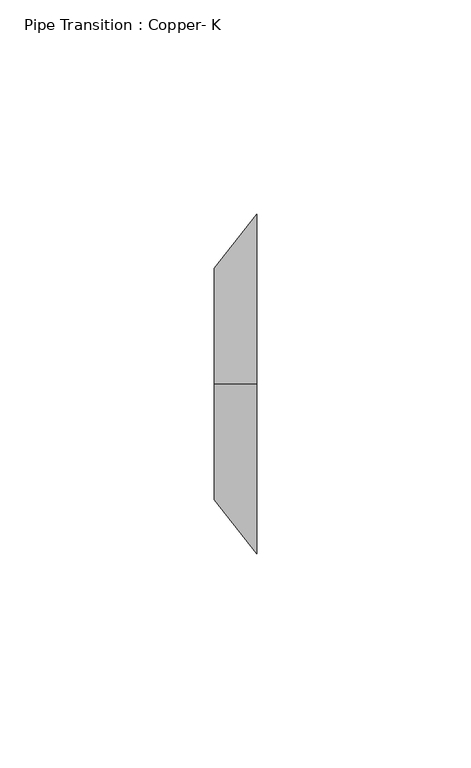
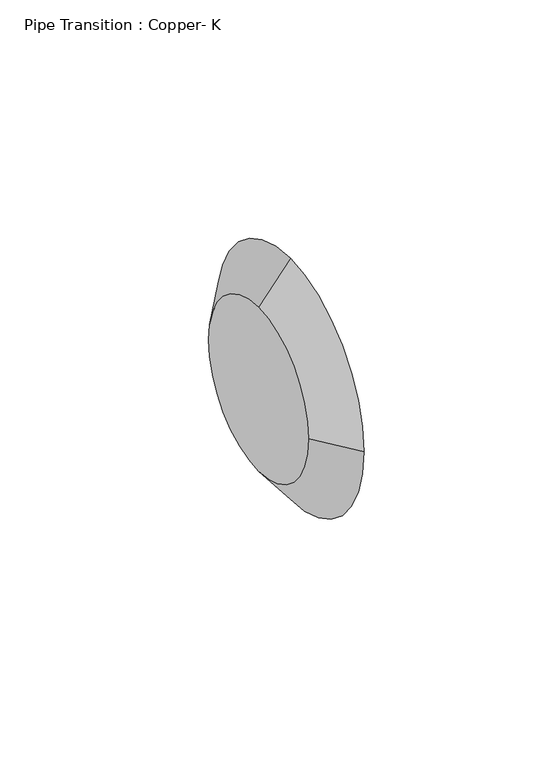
"""IFC4 building model written with IfcOpenShell, lengths in millimetres: pipe fitting geometry, Pipe Transition : Copper- K."""

from ifc_helpers import new_model, si_unit, frame, origin, place, context, project, spatial, polyline, circle_curve, source, transform, mapped, element, save
from ifc_brep_helpers import plane_surface, revolved_surface, advanced_brep


def pipe_transition_copper_k_0a14ba8f(model_context):
    return source(origin(), model_context, "Body", "AdvancedBrep", [
        advanced_brep(
        [(9.921875, 0.0, 39.6875), (9.921875, -39.6875, 0.0), (9.921875, 0.0, -39.6875), (9.921875, 39.6875, 0.0), (0.0, 0.0, 26.9875), (0.0, 26.9875, 0.0), (0.0, 0.0, -26.9875), (0.0, -26.9875, 0.0)],
        [
            (0, 1, circle_curve(frame((9.921875, 0.0, 0.0), z_axis=(1.0, 0.0, 0.0), x_axis=(0.0, -1.0, 0.0)), 39.6875)),
            (1, 2, circle_curve(frame((9.921875, 0.0, 0.0), z_axis=(1.0, 0.0, 0.0), x_axis=(0.0, 0.0, -1.0)), 39.6875)),
            (2, 3, circle_curve(frame((9.921875, 0.0, 0.0), z_axis=(1.0, 0.0, 0.0), x_axis=(0.0, 1.0, 0.0)), 39.6875)),
            (3, 0, circle_curve(frame((9.921875, 0.0, 0.0), z_axis=(1.0, 0.0, 0.0), x_axis=(0.0, 0.0, 1.0)), 39.6875)),
            (4, 5, circle_curve(frame((0.0, 0.0, 0.0), z_axis=(-1.0, 0.0, 0.0), x_axis=(0.0, 0.0, 1.0)), 26.9875)),
            (5, 6, circle_curve(frame((0.0, 0.0, 0.0), z_axis=(-1.0, 0.0, 0.0), x_axis=(0.0, 1.0, 0.0)), 26.9875)),
            (6, 7, circle_curve(frame((0.0, 0.0, 0.0), z_axis=(-1.0, 0.0, 0.0), x_axis=(0.0, 0.0, -1.0)), 26.9875)),
            (7, 4, circle_curve(frame((0.0, 0.0, 0.0), z_axis=(-1.0, 0.0, 0.0), x_axis=(0.0, -1.0, 0.0)), 26.9875)),
            (4, 0),
            (3, 5),
            (2, 6),
            (1, 7),
        ],
        [
            plane_surface(frame((9.921875, 0.0, 0.0), z_axis=(1.0, 0.0, 0.0), x_axis=(0.0, 1.0, 0.0))),
            plane_surface(frame((0.0, 0.0, 0.0), z_axis=(-1.0, 0.0, 0.0), x_axis=(0.0, 1.0, 0.0))),
            revolved_surface(polyline([(0.0, 0.0, 26.98750001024), (9.921875, 0.0, 39.6875)]), (-21.0839844, 0.0, 0.0), (1.0, 0.0, 0.0)),
            revolved_surface(polyline([(0.0, 26.98750001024, 0.0), (9.921875, 39.6875, 0.0)]), (-21.0839844, 0.0, 0.0), (1.0, 0.0, 0.0)),
            revolved_surface(polyline([(0.0, 0.0, -26.98750001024), (9.921875, 0.0, -39.6875)]), (-21.0839844, 0.0, 0.0), (1.0, 0.0, 0.0)),
            revolved_surface(polyline([(0.0, -26.98750001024, 0.0), (9.921875, -39.6875, 0.0)]), (-21.0839844, 0.0, 0.0), (1.0, 0.0, 0.0)),
        ],
        [
            (0, [[1, 2, 3, 4]]),
            (1, [[5, 6, 7, 8]]),
            (2, [[9, -4, 10, -5]]),
            (3, [[-10, -3, 11, -6]]),
            (4, [[-11, -2, 12, -7]]),
            (5, [[-12, -1, -9, -8]]),
        ],
    ),
        advanced_brep(
        [(9.921875, 0.0, 39.6875), (9.921875, -39.6875, 0.0), (9.921875, 0.0, -39.6875), (9.921875, 39.6875, 0.0), (0.0, 0.0, 26.9875), (0.0, 26.9875, 0.0), (0.0, 0.0, -26.9875), (0.0, -26.9875, 0.0)],
        [
            (0, 1, circle_curve(frame((9.921875, 0.0, 0.0), z_axis=(1.0, 0.0, 0.0), x_axis=(0.0, -1.0, 0.0)), 39.6875)),
            (1, 2, circle_curve(frame((9.921875, 0.0, 0.0), z_axis=(1.0, 0.0, -1.3192778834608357e-12), x_axis=(-1.3192648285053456e-12, 0.0, -1.0)), 39.6875)),
            (2, 3, circle_curve(frame((9.921875, 0.0, 0.0), z_axis=(1.0, 0.0, 0.0), x_axis=(0.0, 1.0, 0.0)), 39.6875)),
            (3, 0, circle_curve(frame((9.921875, 0.0, 0.0), z_axis=(1.0, 0.0, 0.0), x_axis=(0.0, 0.0, 1.0)), 39.6875)),
            (4, 5, circle_curve(frame((0.0, 0.0, 0.0), z_axis=(-1.0, 0.0, 0.0), x_axis=(0.0, 0.0, 1.0)), 26.9875)),
            (5, 6, circle_curve(frame((0.0, 0.0, 0.0), z_axis=(-1.0, 0.0, 0.0), x_axis=(0.0, 1.0, 0.0)), 26.9875)),
            (6, 7, circle_curve(frame((0.0, 0.0, 0.0), z_axis=(-1.0, 0.0, 1.3192778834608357e-12), x_axis=(-1.3192648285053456e-12, 0.0, -1.0)), 26.9875)),
            (7, 4, circle_curve(frame((0.0, 0.0, 0.0), z_axis=(-1.0, 0.0, 0.0), x_axis=(0.0, -1.0, 0.0)), 26.9875)),
            (4, 0),
            (3, 5),
            (2, 6),
            (1, 7),
        ],
        [
            plane_surface(frame((9.921875, 0.0, 0.0), z_axis=(1.0, 0.0, 0.0), x_axis=(0.0, 1.0, 0.0))),
            plane_surface(frame((0.0, 0.0, 0.0), z_axis=(-1.0, 0.0, 0.0), x_axis=(0.0, 1.0, 0.0))),
            revolved_surface(polyline([(0.0, 0.0, 26.98750001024), (9.921875, 0.0, 39.6875)]), (-21.0839844, 0.0, 0.0), (1.0, 0.0, 0.0)),
            revolved_surface(polyline([(0.0, 26.98750001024, 0.0), (9.921875, 39.6875, 0.0)]), (-21.0839844, 0.0, 0.0), (1.0, 0.0, 0.0)),
            revolved_surface(polyline([(-3.560174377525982e-11, 0.0, -26.987500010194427), (9.921875, 0.0, -39.6875)]), (-21.0839844, 0.0, 0.0), (1.0, 0.0, -1.3192778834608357e-12)),
            revolved_surface(polyline([(0.0, -26.98750001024, 0.0), (9.921875, -39.6875, 0.0)]), (-21.0839844, 0.0, 0.0), (1.0, 0.0, 0.0)),
        ],
        [
            (0, [[1, 2, 3, 4]]),
            (1, [[5, 6, 7, 8]]),
            (2, [[9, -4, 10, -5]]),
            (3, [[-10, -3, 11, -6]]),
            (4, [[-11, -2, 12, -7]]),
            (5, [[-12, -1, -9, -8]]),
        ],
    ),
    ])


if __name__ == "__main__":
    model = new_model("IFC4")
    model_context = context("Model", 3, world=origin())
    ifc_project = project(units=[si_unit("LENGTHUNIT", "METRE", prefix="MILLI")], contexts=[model_context])
    site = spatial("IfcSite", under=ifc_project)
    building = spatial("IfcBuilding", under=site)
    placement = place(None, origin())
    pipe_transition_copper_k_shape = pipe_transition_copper_k_0a14ba8f(model_context)
    element("IfcPipeFitting", 1, ObjectType="Pipe Transition : Copper- K", at=placement, inside=building, context=model_context, shape_type="MappedRepresentation", body=[
        mapped(pipe_transition_copper_k_shape, transform((0.0, 0.0, 0.0), x_axis=(1.0, 0.0, 0.0), y_axis=(0.0, 1.0, 0.0), z_axis=(0.0, 0.0, 1.0))),
    ])
    save(model, "model.ifc")
